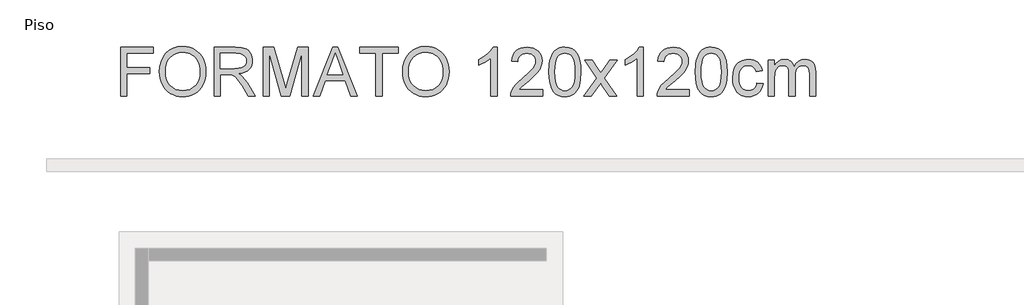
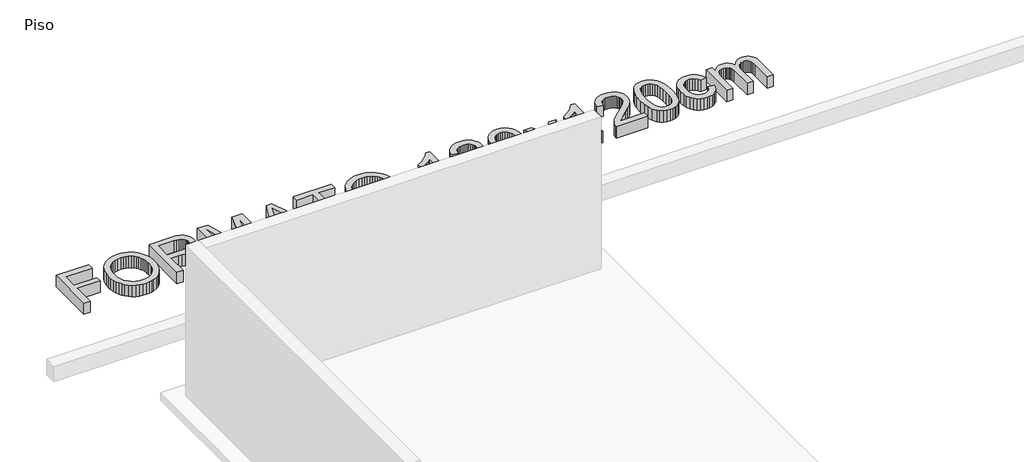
# One storey, part 2 of 2: 1 proxy.
"""IFC4 building model written with IfcOpenShell, lengths in millimetres."""

from ifc_helpers import new_model, si_unit, origin, origin_with_axes, place, context, project, spatial, polyline, outline, extrude, element, save

model = new_model("IFC4")

# Units and contexts
model_context = context("Model", 3, world=origin())
ifc_project = project(units=[si_unit("LENGTHUNIT", "METRE", prefix="MILLI")], contexts=[model_context])

# Site, building, storey
site = spatial("IfcSite", under=ifc_project)
building = spatial("IfcBuilding", under=site)
storey = spatial("IfcBuildingStorey", under=building, Name="Piso", Elevation=0.0)

# Proxy
placement = place(None, origin())
element("IfcBuildingElementProxy", 1, Name="600mm Arial", ObjectType="600mm Arial", at=placement, inside=storey, context=model_context, shape_type="SweptSolid", body=[
    extrude(outline(polyline([(92602.0859381, 2702.6380465), (92602.0859381, 3305.3759074), (93007.0504384, 3305.3759074), (93007.0504384, 3230.0336748), (92677.4281707, 3230.0336748), (92677.4281707, 3051.0958724), (92959.961543, 3051.0958724), (92959.961543, 2975.7536397), (92677.4281707, 2975.7536397), (92677.4281707, 2702.6380465), (92602.0859381, 2702.6380465)])), origin_with_axes(), (0.0, 0.0, 1.0), 150.0),
    extrude(outline(polyline([(93082.392671, 2996.0607259), (93087.4142602, 3066.7584483), (93102.4790279, 3129.3443727), (93127.5869741, 3183.8184992), (93143.9071391, 3208.0136381), (93162.7380987, 3230.1808276), (93205.8262774, 3267.1989534), (93254.7453857, 3293.6404718), (93309.4954237, 3309.5053828), (93370.0763912, 3314.7936865), (93410.6261841, 3312.310483), (93449.134232, 3304.8608726), (93485.6005348, 3292.4448553), (93520.0250925, 3275.062431), (93551.4422148, 3253.2378317), (93578.8862117, 3227.495289), (93602.357083, 3197.8348032), (93621.8548287, 3164.2563741), (93637.1771138, 3127.5233569), (93648.1216032, 3088.3991067), (93654.6882968, 3046.8836235), (93656.8771947, 3002.9769074), (93654.5733337, 2958.4907771), (93647.6617507, 2916.4142739), (93636.1424457, 2876.7473978), (93620.0154187, 2839.4901487), (93599.6623474, 2805.6266111), (93575.4649091, 2776.1408692), (93547.423104, 2751.032923), (93515.5369321, 2730.3027726), (93481.0617906, 2714.0791766), (93445.2530769, 2702.4908937), (93408.110791, 2695.537924), (93369.6349328, 2693.2202674), (93328.3769671, 2695.7816458), (93289.3630815, 2703.465781), (93252.5932761, 2716.272673), (93218.0675508, 2734.2023217), (93186.6872166, 2756.56035), (93159.3535844, 2782.6523805), (93136.0666541, 2812.4784132), (93116.8264257, 2846.0384482), (93101.761658, 2881.9851177), (93091.0011097, 2918.9710538), (93084.5447807, 2956.9962565), (93082.392671, 2996.0607259)]), holes=[polyline([(93157.7349036, 2995.3249619), (93161.5010955, 2945.375784), (93172.7996713, 2901.0368065), (93191.6306309, 2862.3080295), (93217.9939744, 2829.1894529), (93250.0410947, 2802.665161), (93285.9233848, 2783.7192383), (93325.6408447, 2772.3516846), (93369.1934744, 2768.5625001), (93413.4910652, 2772.3884728), (93453.6775746, 2783.8663911), (93489.7530028, 2802.9962548), (93521.7173496, 2829.7780641), (93547.8875551, 2863.5956165), (93566.5805589, 2903.8327097), (93577.7963613, 2950.4893437), (93581.5349621, 3003.5655186), (93579.9346754, 3038.0452586), (93575.1338153, 3070.2625243), (93567.1323819, 3100.2173158), (93555.9303752, 3127.9096329), (93541.6519553, 3152.9761924), (93524.4212823, 3175.0537106), (93504.2383563, 3194.1421877), (93481.1031774, 3210.2416235), (93455.7331153, 3223.0209243), (93428.84554, 3232.1489963), (93400.4404514, 3237.6258395), (93370.5178496, 3239.4514539), (93328.4781346, 3235.9335823), (93289.4734461, 3225.3799676), (93253.503784, 3207.7906097), (93220.5691484, 3183.1655086), (93193.0791663, 3150.318245), (93173.4434648, 3108.0623993), (93161.6620439, 3056.3979716), (93157.7349036, 2995.3249619)])]), origin_with_axes(), (0.0, 0.0, 1.0), 150.0),
    extrude(outline(polyline([(93760.4727645, 2702.6380465), (93760.4727645, 3305.3759074), (94020.1974531, 3305.3759074), (94090.0030617, 3301.3108114), (94140.7891711, 3289.1155232), (94160.3880844, 3279.4218327), (94177.9084644, 3266.6011451), (94193.3503112, 3250.6534606), (94206.7136247, 3231.5787792), (94217.4971656, 3210.4025718), (94225.1996949, 3188.1503097), (94229.8212125, 3164.8219926), (94231.3617183, 3140.4176208), (94228.809537, 3109.4603509), (94221.152993, 3081.0414668), (94208.3920863, 3055.1609684), (94190.5268169, 3031.8188558), (94167.3272585, 3011.76009), (94138.563485, 2995.7296321), (94104.2354964, 2983.727482), (94064.3432925, 2975.7536397), (94089.1753272, 2959.5300438), (94107.1647568, 2943.527177), (94138.0300562, 2906.9229184), (94168.233168, 2865.9776524), (94268.738529, 2702.6380465), (94181.1826142, 2702.6380465), (94102.7501728, 2827.5707721), (94046.0963456, 2910.2706446), (94025.0351013, 2934.3853094), (94006.2915137, 2949.3397125), (93970.4598074, 2963.6871103), (93926.7554263, 2966.3358607), (93835.8149971, 2966.3358607), (93835.8149971, 2702.6380465), (93760.4727645, 2702.6380465)]), holes=[polyline([(93835.8149971, 3041.6780933), (94004.4521037, 3041.6780933), (94052.8837684, 3044.3452377), (94090.4629142, 3052.3466711), (94118.7530396, 3066.2158224), (94139.3176431, 3086.4861203), (94151.8440251, 3111.0054553), (94156.0194857, 3137.6217176), (94154.0283244, 3156.8895371), (94148.0548405, 3174.3731289), (94138.099034, 3190.0724931), (94124.1609049, 3203.9876296), (94105.9185565, 3215.3827744), (94083.050092, 3223.5221635), (94055.5555114, 3228.405797), (94023.4348147, 3230.0336748), (93835.8149971, 3230.0336748), (93835.8149971, 3041.6780933)])]), origin_with_axes(), (0.0, 0.0, 1.0), 150.0),
    extrude(outline(polyline([(94363.2106254, 2702.6380465), (94363.2106254, 3305.3759074), (94492.8522405, 3305.3759074), (94616.1662853, 2880.5457794), (94641.0351082, 2791.8126422), (94667.9640702, 2887.9034193), (94789.2179758, 3305.3759074), (94918.8595909, 3305.3759074), (94918.8595909, 2702.6380465), (94843.5173583, 2702.6380465), (94843.5173583, 3230.0336748), (94692.0971291, 2702.6380465), (94589.9730872, 2702.6380465), (94438.552858, 3230.0336748), (94438.552858, 2702.6380465), (94363.2106254, 2702.6380465)])), origin_with_axes(), (0.0, 0.0, 1.0), 150.0),
    extrude(outline(polyline([(94980.5166133, 2702.6380465), (95221.1114382, 3305.3759074), (95285.2700581, 3305.3759074), (95525.864883, 2702.6380465), (95446.2552192, 2702.6380465), (95377.2405569, 2890.9936281), (95128.9937866, 2890.9936281), (95060.1262771, 2702.6380465), (94980.5166133, 2702.6380465)]), holes=[polyline([(95156.6585126, 2966.3358607), (95349.7229837, 2966.3358607), (95295.4236012, 3114.5187283), (95253.1907481, 3230.0336748), (95215.6667846, 3127.4681746), (95156.6585126, 2966.3358607)])]), origin_with_axes(), (0.0, 0.0, 1.0), 150.0),
    extrude(outline(polyline([(95757.0419287, 2702.6380465), (95757.0419287, 3230.0336748), (95559.2685681, 3230.0336748), (95559.2685681, 3305.3759074), (96030.1575219, 3305.3759074), (96030.1575219, 3230.0336748), (95832.3841613, 3230.0336748), (95832.3841613, 2702.6380465), (95757.0419287, 2702.6380465)])), origin_with_axes(), (0.0, 0.0, 1.0), 150.0),
    extrude(outline(polyline([(96086.6641964, 2996.0607259), (96091.6857856, 3066.7584483), (96106.7505533, 3129.3443727), (96131.8584995, 3183.8184992), (96148.1786645, 3208.0136381), (96167.0096242, 3230.1808276), (96210.0978028, 3267.1989534), (96259.0169111, 3293.6404718), (96313.7669491, 3309.5053828), (96374.3479166, 3314.7936865), (96414.8977096, 3312.310483), (96453.4057574, 3304.8608726), (96489.8720602, 3292.4448553), (96524.2966179, 3275.062431), (96555.7137403, 3253.2378317), (96583.1577371, 3227.495289), (96606.6286084, 3197.8348032), (96626.1263541, 3164.2563741), (96641.4486392, 3127.5233569), (96652.3931286, 3088.3991067), (96658.9598222, 3046.8836235), (96661.1487201, 3002.9769074), (96658.8448591, 2958.4907771), (96651.9332761, 2916.4142739), (96640.4139711, 2876.7473978), (96624.2869442, 2839.4901487), (96603.9338728, 2805.6266111), (96579.7364345, 2776.1408692), (96551.6946295, 2751.032923), (96519.8084575, 2730.3027726), (96485.3333161, 2714.0791766), (96449.5246024, 2702.4908937), (96412.3823164, 2695.537924), (96373.9064582, 2693.2202674), (96332.6484925, 2695.7816458), (96293.6346069, 2703.465781), (96256.8648015, 2716.272673), (96222.3390762, 2734.2023217), (96190.958742, 2756.56035), (96163.6251098, 2782.6523805), (96140.3381795, 2812.4784132), (96121.0979512, 2846.0384482), (96106.0331835, 2881.9851177), (96095.2726351, 2918.9710538), (96088.8163061, 2956.9962565), (96086.6641964, 2996.0607259)]), holes=[polyline([(96162.006429, 2995.3249619), (96165.7726209, 2945.375784), (96177.0711967, 2901.0368065), (96195.9021564, 2862.3080295), (96222.2654998, 2829.1894529), (96254.3126201, 2802.665161), (96290.1949102, 2783.7192383), (96329.9123701, 2772.3516846), (96373.4649998, 2768.5625001), (96417.7625906, 2772.3884728), (96457.9491, 2783.8663911), (96494.0245282, 2802.9962548), (96525.988875, 2829.7780641), (96552.1590805, 2863.5956165), (96570.8520844, 2903.8327097), (96582.0678867, 2950.4893437), (96585.8064875, 3003.5655186), (96584.2062008, 3038.0452586), (96579.4053407, 3070.2625243), (96571.4039074, 3100.2173158), (96560.2019006, 3127.9096329), (96545.9234807, 3152.9761924), (96528.6928077, 3175.0537106), (96508.5098818, 3194.1421877), (96485.3747028, 3210.2416235), (96460.0046407, 3223.0209243), (96433.1170654, 3232.1489963), (96404.7119768, 3237.6258395), (96374.789375, 3239.4514539), (96332.74966, 3235.9335823), (96293.7449715, 3225.3799676), (96257.7753094, 3207.7906097), (96224.8406738, 3183.1655086), (96197.3506917, 3150.318245), (96177.7149902, 3108.0623993), (96165.9335693, 3056.3979716), (96162.006429, 2995.3249619)])]), origin_with_axes(), (0.0, 0.0, 1.0), 150.0),
    extrude(outline(polyline([(97254.4688019, 2702.6380465), (97179.1265693, 2702.6380465), (97179.1265693, 3172.349778), (97147.6726587, 3146.910738), (97107.7574622, 3121.5084862), (97065.855703, 3099.3068078), (97028.4421041, 3083.4694879), (97028.4421041, 3154.6914422), (97087.615923, 3186.8811168), (97138.880279, 3225.1776325), (97179.2921162, 3265.9021693), (97205.9083785, 3305.3759074), (97254.4688019, 3305.3759074), (97254.4688019, 2702.6380465)])), origin_with_axes(), (0.0, 0.0, 1.0), 150.0),
    extrude(outline(polyline([(97819.5355465, 2777.9802791), (97819.5355465, 2702.6380465), (97423.9888253, 2702.6380465), (97425.6442943, 2729.1623384), (97432.0822292, 2754.5829842), (97450.6602699, 2795.1787624), (97477.8467494, 2834.56053), (97517.1733347, 2875.7817076), (97572.1716929, 2921.8957157), (97653.4736139, 2994.1109513), (97702.2547664, 3047.4170524), (97716.4826026, 3069.1956665), (97726.6453427, 3090.679975), (97732.7429868, 3111.869978), (97734.7755348, 3132.7656753), (97732.8579499, 3152.4243694), (97727.1051952, 3170.4919739), (97717.5172707, 3186.9684888), (97704.0941764, 3201.853914), (97687.5808733, 3214.1825593), (97668.7223226, 3222.9887346), (97647.5185241, 3228.2724398), (97623.9694779, 3230.0336748), (97599.1604358, 3228.3138265), (97576.972553, 3223.1542815), (97557.4058294, 3214.5550399), (97540.4602649, 3202.5161016), (97526.7520621, 3187.4421368), (97516.8974232, 3169.7378158), (97510.8963481, 3149.4031385), (97508.748837, 3126.438105), (97433.4066044, 3135.855884), (97439.885926, 3174.750208), (97451.6719454, 3208.7333073), (97468.7646626, 3237.805182), (97491.1640776, 3261.965832), (97518.3551556, 3280.95774), (97549.8228617, 3294.5233886), (97585.5671961, 3302.6627777), (97625.5881586, 3305.3759074), (97665.9678061, 3302.3592751), (97701.9052785, 3293.309378), (97733.4005758, 3278.2262162), (97760.4536981, 3257.1097897), (97782.1817284, 3231.5235969), (97797.7017501, 3203.0311364), (97807.0137631, 3171.6324081), (97810.1177674, 3137.327412), (97806.7700413, 3101.2933706), (97796.7268628, 3065.8847286), (97778.9029801, 3029.8690812), (97752.2131414, 2992.0140239), (97709.6675886, 2946.8197208), (97644.276564, 2888.7863361), (97557.6035659, 2816.313583), (97523.6112696, 2777.9802791), (97819.5355465, 2777.9802791)])), origin_with_axes(), (0.0, 0.0, 1.0), 150.0),
    extrude(outline(polyline([(97894.8777791, 2999.1509346), (97900.4144031, 3095.6279879), (97907.3351832, 3136.5410643), (97917.0242752, 3172.5705072), (97929.4402925, 3204.0106222), (97944.5418484, 3231.1557149), (97962.3289429, 3254.0057853), (97982.8015759, 3272.5608335), (98006.0287254, 3286.9174283), (98032.0793692, 3297.1721389), (98060.9535073, 3303.3249653), (98092.6511397, 3305.3759074), (98139.0778475, 3300.5198651), (98180.648513, 3285.9517381), (98215.4133615, 3262.2417435), (98241.4226186, 3229.9600984), (98261.0675171, 3189.3827143), (98276.7392901, 3140.7855028), (98287.0031978, 3079.0732981), (98290.4245003, 2999.1509346), (98284.9430586, 2903.2257044), (98278.0912564, 2862.4505838), (98268.4987334, 2826.4671261), (98256.1792851, 2795.0132155), (98241.1467071, 2767.8267361), (98223.4009993, 2744.9076878), (98202.9421619, 2726.2560706), (98179.6874212, 2711.8029067), (98153.554004, 2701.4792182), (98124.5419102, 2695.2850051), (98092.6511397, 2693.2202674), (98051.1540507, 2696.8071169), (98014.3658511, 2707.5676653), (97982.2865412, 2725.5019125), (97954.9161207, 2750.6098587), (97928.6493463, 2795.9972999), (97909.8873645, 2852.5499596), (97898.6301755, 2920.2678378), (97894.8777791, 2999.1509346)]), holes=[polyline([(97970.2200117, 2999.2980874), (97972.4273037, 2933.8012967), (97979.0491796, 2880.7849027), (97990.0856395, 2840.2489053), (98005.5366833, 2812.1933047), (98024.2250886, 2793.1048277), (98044.9736331, 2779.4702012), (98067.7823168, 2771.2894254), (98092.6511397, 2768.5625001), (98117.5199626, 2771.2986224), (98140.3286463, 2779.5069894), (98161.0771908, 2793.1876011), (98179.7655962, 2812.3404575), (98195.21664, 2840.4420434), (98206.2530998, 2880.9688437), (98212.8749757, 2933.9208584), (98215.0822677, 2999.2980874), (98212.9485521, 3063.0612342), (98206.5474054, 3115.1441277), (98195.8788276, 3155.5467678), (98180.9428186, 3184.2691546), (98162.5671129, 3204.2911322), (98141.5794451, 3218.5925448), (98117.9798151, 3227.1733923), (98091.7682229, 3230.0336748), (98067.0281587, 3227.5136831), (98044.6057511, 3219.9537081), (98024.5010001, 3207.3537498), (98006.7139056, 3189.7138081), (97990.747827, 3158.4438385), (97979.3434852, 3116.2845619), (97972.5008801, 3063.2359782), (97970.2200117, 2999.2980874)])]), origin_with_axes(), (0.0, 0.0, 1.0), 150.0),
    extrude(outline(polyline([(98328.0956166, 2702.6380465), (98489.0807777, 2925.1330772), (98337.5133957, 3145.2736631), (98428.1595193, 3145.2736631), (98501.29446, 3039.3236485), (98535.4339091, 2989.2916972), (98565.0116215, 3030.200175), (98648.3001052, 3145.2736631), (98738.9462288, 3145.2736631), (98579.7269013, 2925.1330772), (98733.0601169, 2702.6380465), (98642.4139933, 2702.6380465), (98550.1491889, 2836.39994), (98533.2266171, 2860.8273045), (98418.7417402, 2702.6380465), (98328.0956166, 2702.6380465)])), origin_with_axes(), (0.0, 0.0, 1.0), 150.0),
    extrude(outline(polyline([(99062.6823846, 2702.6380465), (98987.340152, 2702.6380465), (98987.340152, 3172.349778), (98955.8862414, 3146.910738), (98915.9710449, 3121.5084862), (98874.0692857, 3099.3068078), (98836.6556868, 3083.4694879), (98836.6556868, 3154.6914422), (98895.8295057, 3186.8811168), (98947.0938617, 3225.1776325), (98987.5056989, 3265.9021693), (99014.1219612, 3305.3759074), (99062.6823846, 3305.3759074), (99062.6823846, 2702.6380465)])), origin_with_axes(), (0.0, 0.0, 1.0), 150.0),
    extrude(outline(polyline([(99627.7491292, 2777.9802791), (99627.7491292, 2702.6380465), (99232.202408, 2702.6380465), (99233.8578769, 2729.1623384), (99240.2958119, 2754.5829842), (99258.8738526, 2795.1787624), (99286.0603321, 2834.56053), (99325.3869173, 2875.7817076), (99380.3852756, 2921.8957157), (99461.6871966, 2994.1109513), (99510.4683491, 3047.4170524), (99524.6961853, 3069.1956665), (99534.8589254, 3090.679975), (99540.9565695, 3111.869978), (99542.9891175, 3132.7656753), (99541.0715326, 3152.4243694), (99535.3187779, 3170.4919739), (99525.7308534, 3186.9684888), (99512.3077591, 3201.853914), (99495.794456, 3214.1825593), (99476.9359053, 3222.9887346), (99455.7321068, 3228.2724398), (99432.1830605, 3230.0336748), (99407.3740185, 3228.3138265), (99385.1861357, 3223.1542815), (99365.619412, 3214.5550399), (99348.6738476, 3202.5161016), (99334.9656448, 3187.4421368), (99325.1110058, 3169.7378158), (99319.1099308, 3149.4031385), (99316.9624197, 3126.438105), (99241.620187, 3135.855884), (99248.0995087, 3174.750208), (99259.8855281, 3208.7333073), (99276.9782453, 3237.805182), (99299.3776603, 3261.965832), (99326.5687383, 3280.95774), (99358.0364444, 3294.5233886), (99393.7807788, 3302.6627777), (99433.8017413, 3305.3759074), (99474.1813888, 3302.3592751), (99510.1188612, 3293.309378), (99541.6141585, 3278.2262162), (99568.6672808, 3257.1097897), (99590.3953111, 3231.5235969), (99605.9153328, 3203.0311364), (99615.2273458, 3171.6324081), (99618.3313501, 3137.327412), (99614.9836239, 3101.2933706), (99604.9404455, 3065.8847286), (99587.1165628, 3029.8690812), (99560.4267241, 2992.0140239), (99517.8811713, 2946.8197208), (99452.4901467, 2888.7863361), (99365.8171486, 2816.313583), (99331.8248523, 2777.9802791), (99627.7491292, 2777.9802791)])), origin_with_axes(), (0.0, 0.0, 1.0), 150.0),
    extrude(outline(polyline([(99703.0913618, 2999.1509346), (99708.6279858, 3095.6279879), (99715.5487659, 3136.5410643), (99725.2378579, 3172.5705072), (99737.6538752, 3204.0106222), (99752.7554311, 3231.1557149), (99770.5425256, 3254.0057853), (99791.0151586, 3272.5608335), (99814.2423081, 3286.9174283), (99840.2929519, 3297.1721389), (99869.16709, 3303.3249653), (99900.8647224, 3305.3759074), (99947.2914302, 3300.5198651), (99988.8620956, 3285.9517381), (100023.6269442, 3262.2417435), (100049.6362013, 3229.9600984), (100069.2810998, 3189.3827143), (100084.9528728, 3140.7855028), (100095.2167805, 3079.0732981), (100098.638083, 2999.1509346), (100093.1566413, 2903.2257044), (100086.3048391, 2862.4505838), (100076.7123161, 2826.4671261), (100064.3928678, 2795.0132155), (100049.3602898, 2767.8267361), (100031.614582, 2744.9076878), (100011.1557446, 2726.2560706), (99987.9010039, 2711.8029067), (99961.7675867, 2701.4792182), (99932.7554929, 2695.2850051), (99900.8647224, 2693.2202674), (99859.3676333, 2696.8071169), (99822.5794338, 2707.5676653), (99790.5001238, 2725.5019125), (99763.1297034, 2750.6098587), (99736.862929, 2795.9972999), (99718.1009472, 2852.5499596), (99706.8437581, 2920.2678378), (99703.0913618, 2999.1509346)]), holes=[polyline([(99778.4335944, 2999.2980874), (99780.6408864, 2933.8012967), (99787.2627623, 2880.7849027), (99798.2992221, 2840.2489053), (99813.7502659, 2812.1933047), (99832.4386713, 2793.1048277), (99853.1872158, 2779.4702012), (99875.9958995, 2771.2894254), (99900.8647224, 2768.5625001), (99925.7335453, 2771.2986224), (99948.542229, 2779.5069894), (99969.2907735, 2793.1876011), (99987.9791789, 2812.3404575), (100003.4302227, 2840.4420434), (100014.4666825, 2880.9688437), (100021.0885584, 2933.9208584), (100023.2958504, 2999.2980874), (100021.1621348, 3063.0612342), (100014.7609881, 3115.1441277), (100004.0924102, 3155.5467678), (99989.1564012, 3184.2691546), (99970.7806956, 3204.2911322), (99949.7930278, 3218.5925448), (99926.1933978, 3227.1733923), (99899.9818056, 3230.0336748), (99875.2417414, 3227.5136831), (99852.8193338, 3219.9537081), (99832.7145828, 3207.3537498), (99814.9274883, 3189.7138081), (99798.9614097, 3158.4438385), (99787.5570679, 3116.2845619), (99780.7144628, 3063.2359782), (99778.4335944, 2999.2980874)])]), origin_with_axes(), (0.0, 0.0, 1.0), 150.0),
    extrude(outline(polyline([(100465.931467, 2862.7402908), (100541.2736996, 2853.3225117), (100533.0791282, 2817.7713154), (100520.2676377, 2786.3128063), (100502.8392282, 2758.9469844), (100480.7938996, 2735.6738497), (100455.060554, 2717.1004075), (100426.5680935, 2703.833663), (100395.316518, 2695.8736163), (100361.3058276, 2693.2202674), (100319.0499819, 2696.92208), (100281.1627349, 2708.0275178), (100247.6440866, 2726.5365806), (100218.494037, 2752.4492687), (100194.8990056, 2785.2781382), (100178.0454117, 2824.5357456), (100167.9332553, 2870.2220909), (100164.5625365, 2922.337174), (100170.3198898, 2989.3836677), (100177.5165813, 3019.5545898), (100187.5919494, 3047.4906288), (100200.6149721, 3072.6307646), (100216.6546271, 3094.4139773), (100235.7109144, 3112.8402667), (100257.7838341, 3127.9096329), (100281.8755063, 3139.6266745), (100306.988051, 3147.9959899), (100333.1214682, 3153.0175791), (100360.275758, 3154.6914422), (100393.7024358, 3152.3921797), (100423.9377372, 3145.4943923), (100450.9816624, 3133.99808), (100474.8342113, 3117.9032427), (100495.0907136, 3097.5777624), (100511.3464993, 3073.3895213), (100523.6015683, 3045.3385191), (100531.8559205, 3013.4247561), (100456.5136879, 3004.006977), (100442.8468718, 3036.8772332), (100421.5648984, 3060.440075), (100393.84499, 3074.6219259), (100360.8643692, 3079.3492096), (100335.2643808, 3077.022356), (100312.1751871, 3070.0417951), (100291.596788, 3058.407527), (100273.5291835, 3042.1195517), (100258.8185022, 3020.8007901), (100248.3108727, 2994.0741631), (100242.0062951, 2961.9396708), (100239.9047692, 2924.3973132), (100241.9603098, 2886.289337), (100248.1269317, 2853.7823642), (100258.404635, 2826.8763948), (100272.7934195, 2805.5714288), (100290.5023391, 2789.3800225), (100310.7404473, 2777.8147322), (100333.5077443, 2770.8755581), (100358.80423, 2768.5625001), (100397.8181156, 2774.3382474), (100414.6901036, 2781.5579315), (100429.8054551, 2791.6654894), (100442.7411057, 2804.7712854), (100453.0739913, 2820.9856844), (100460.8041117, 2840.3086862), (100465.931467, 2862.7402908)])), origin_with_axes(), (0.0, 0.0, 1.0), 150.0),
    extrude(outline(polyline([(100607.1981531, 2702.6380465), (100607.1981531, 3145.2736631), (100682.5403858, 3145.2736631), (100682.5403858, 3072.4330281), (100705.2019167, 3105.8918955), (100734.3381707, 3132.1034877), (100768.9558664, 3149.0444536), (100808.0617225, 3154.6914422), (100849.9634818, 3148.934089), (100867.7965615, 3141.7373974), (100883.5511079, 3131.6620293), (100908.64066, 3104.0156974), (100925.048197, 3067.1355273), (100952.5105879, 3105.4412401), (100983.8357398, 3132.8024635), (101019.0236526, 3149.2191975), (101058.0743264, 3154.6914422), (101088.2360515, 3152.4151724), (101114.7097596, 3145.5863628), (101137.4954507, 3134.2050136), (101156.5931247, 3118.2711247), (101171.6900821, 3097.6007551), (101182.4736231, 3072.0099638), (101188.9437477, 3041.4987508), (101191.1004559, 3006.0671161), (101191.1004559, 2702.6380465), (101115.7582233, 2702.6380465), (101115.7582233, 2973.6935006), (101114.0107838, 3011.2726464), (101108.7684654, 3036.6013217), (101098.9460161, 3053.9469578), (101083.4581841, 3067.5769857), (101063.5373741, 3076.4061536), (101040.4159907, 3079.3492096), (101019.0650394, 3077.4638144), (100999.5994833, 3071.8076287), (100982.0193225, 3062.3806526), (100966.3245568, 3049.182886), (100953.4164973, 3031.8280529), (100944.1964548, 3009.9298771), (100938.6644293, 2983.4883587), (100936.8204208, 2952.5034976), (100936.8204208, 2702.6380465), (100861.4781882, 2702.6380465), (100861.4781882, 2982.0812101), (100857.1187866, 3024.6819451), (100851.6695345, 3041.4021818), (100844.0405816, 3055.0689979), (100833.9284253, 3065.6915905), (100821.0295628, 3073.2791567), (100805.3439943, 3077.8316964), (100786.8717196, 3079.3492096), (100757.8458302, 3075.3025076), (100731.1008091, 3063.1624018), (100709.0278894, 3043.2231977), (100694.018304, 3015.7792008), (100685.4098653, 2977.7034143), (100682.5403858, 2925.8688412), (100682.5403858, 2702.6380465), (100607.1981531, 2702.6380465)])), origin_with_axes(), (0.0, 0.0, 1.0), 150.0),
])

save(model, "model.ifc")
